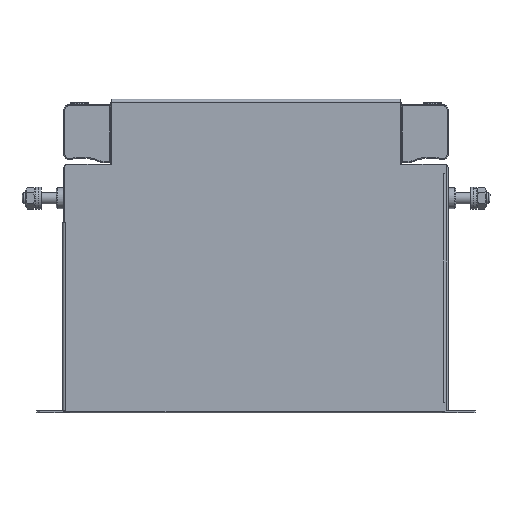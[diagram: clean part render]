
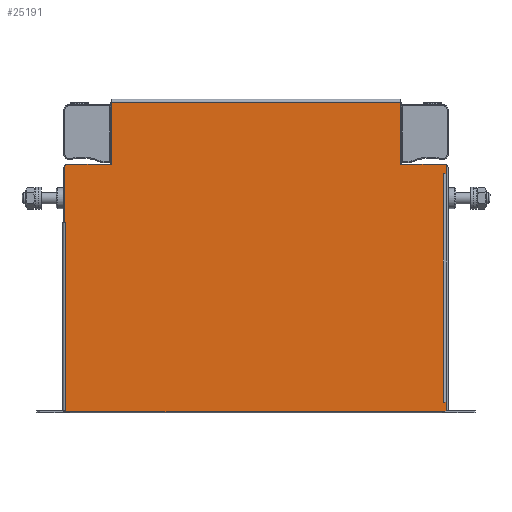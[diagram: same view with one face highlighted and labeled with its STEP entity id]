
A CAD part, top view. The second image highlights one B-rep face of the part: STEP entity #25191.
In plain terms, the highlighted planar face has unit normal (0, 0, 1).
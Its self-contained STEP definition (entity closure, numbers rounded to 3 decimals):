
#2637=FACE_OUTER_BOUND('',#4230,.T.);
#4230=EDGE_LOOP('',(#19811,#19812,#19813,#19814,#19815,#19816,#19817,#19818,
#19819,#19820,#19821,#19822,#19823,#19824,#19825,#19826,#19827,#19828,#19829,
#19830,#19831,#19832,#19833,#19834,#19835,#19836,#19837));
#6582=LINE('',#40870,#8995);
#6583=LINE('',#40872,#8996);
#6584=LINE('',#40874,#8997);
#6585=LINE('',#40876,#8998);
#6586=LINE('',#40878,#8999);
#6587=LINE('',#40880,#9000);
#6588=LINE('',#40882,#9001);
#6589=LINE('',#40884,#9002);
#6590=LINE('',#40886,#9003);
#6591=LINE('',#40888,#9004);
#6592=LINE('',#40890,#9005);
#6593=LINE('',#40892,#9006);
#6594=LINE('',#40894,#9007);
#6595=LINE('',#40896,#9008);
#6596=LINE('',#40898,#9009);
#6597=LINE('',#40900,#9010);
#6598=LINE('',#40902,#9011);
#6599=LINE('',#40904,#9012);
#6600=LINE('',#40906,#9013);
#6601=LINE('',#40908,#9014);
#6602=LINE('',#40910,#9015);
#6603=LINE('',#40911,#9016);
#6604=LINE('',#40913,#9017);
#6605=LINE('',#40915,#9018);
#6606=LINE('',#40917,#9019);
#6607=LINE('',#40919,#9020);
#6608=LINE('',#40920,#9021);
#8995=VECTOR('',#32714,10.);
#8996=VECTOR('',#32715,10.);
#8997=VECTOR('',#32716,10.);
#8998=VECTOR('',#32717,10.);
#8999=VECTOR('',#32718,10.);
#9000=VECTOR('',#32719,10.);
#9001=VECTOR('',#32720,10.);
#9002=VECTOR('',#32721,10.);
#9003=VECTOR('',#32722,10.);
#9004=VECTOR('',#32723,10.);
#9005=VECTOR('',#32724,10.);
#9006=VECTOR('',#32725,10.);
#9007=VECTOR('',#32726,10.);
#9008=VECTOR('',#32727,10.);
#9009=VECTOR('',#32728,10.);
#9010=VECTOR('',#32729,10.);
#9011=VECTOR('',#32730,10.);
#9012=VECTOR('',#32731,10.);
#9013=VECTOR('',#32732,10.);
#9014=VECTOR('',#32733,10.);
#9015=VECTOR('',#32734,10.);
#9016=VECTOR('',#32735,10.);
#9017=VECTOR('',#32736,10.);
#9018=VECTOR('',#32737,10.);
#9019=VECTOR('',#32738,10.);
#9020=VECTOR('',#32739,10.);
#9021=VECTOR('',#32740,10.);
#11127=VERTEX_POINT('',#40715);
#11179=VERTEX_POINT('',#40868);
#11180=VERTEX_POINT('',#40869);
#11181=VERTEX_POINT('',#40871);
#11182=VERTEX_POINT('',#40873);
#11183=VERTEX_POINT('',#40875);
#11184=VERTEX_POINT('',#40877);
#11185=VERTEX_POINT('',#40879);
#11186=VERTEX_POINT('',#40881);
#11187=VERTEX_POINT('',#40883);
#11188=VERTEX_POINT('',#40885);
#11189=VERTEX_POINT('',#40887);
#11190=VERTEX_POINT('',#40889);
#11191=VERTEX_POINT('',#40891);
#11192=VERTEX_POINT('',#40893);
#11193=VERTEX_POINT('',#40895);
#11194=VERTEX_POINT('',#40897);
#11195=VERTEX_POINT('',#40899);
#11196=VERTEX_POINT('',#40901);
#11197=VERTEX_POINT('',#40903);
#11198=VERTEX_POINT('',#40905);
#11199=VERTEX_POINT('',#40907);
#11200=VERTEX_POINT('',#40909);
#11201=VERTEX_POINT('',#40912);
#11202=VERTEX_POINT('',#40914);
#11203=VERTEX_POINT('',#40916);
#11204=VERTEX_POINT('',#40918);
#14136=EDGE_CURVE('',#11179,#11180,#6582,.T.);
#14137=EDGE_CURVE('',#11181,#11179,#6583,.T.);
#14138=EDGE_CURVE('',#11181,#11182,#6584,.T.);
#14139=EDGE_CURVE('',#11182,#11183,#6585,.T.);
#14140=EDGE_CURVE('',#11183,#11184,#6586,.T.);
#14141=EDGE_CURVE('',#11184,#11185,#6587,.T.);
#14142=EDGE_CURVE('',#11185,#11186,#6588,.T.);
#14143=EDGE_CURVE('',#11186,#11187,#6589,.T.);
#14144=EDGE_CURVE('',#11187,#11188,#6590,.T.);
#14145=EDGE_CURVE('',#11189,#11188,#6591,.T.);
#14146=EDGE_CURVE('',#11190,#11189,#6592,.T.);
#14147=EDGE_CURVE('',#11190,#11191,#6593,.T.);
#14148=EDGE_CURVE('',#11191,#11192,#6594,.T.);
#14149=EDGE_CURVE('',#11192,#11193,#6595,.T.);
#14150=EDGE_CURVE('',#11193,#11194,#6596,.T.);
#14151=EDGE_CURVE('',#11194,#11195,#6597,.T.);
#14152=EDGE_CURVE('',#11196,#11195,#6598,.T.);
#14153=EDGE_CURVE('',#11196,#11197,#6599,.T.);
#14154=EDGE_CURVE('',#11197,#11198,#6600,.T.);
#14155=EDGE_CURVE('',#11198,#11199,#6601,.T.);
#14156=EDGE_CURVE('',#11199,#11200,#6602,.T.);
#14157=EDGE_CURVE('',#11200,#11127,#6603,.T.);
#14158=EDGE_CURVE('',#11127,#11201,#6604,.T.);
#14159=EDGE_CURVE('',#11201,#11202,#6605,.T.);
#14160=EDGE_CURVE('',#11202,#11203,#6606,.T.);
#14161=EDGE_CURVE('',#11204,#11203,#6607,.T.);
#14162=EDGE_CURVE('',#11180,#11204,#6608,.T.);
#19811=ORIENTED_EDGE('',*,*,#14136,.F.);
#19812=ORIENTED_EDGE('',*,*,#14137,.F.);
#19813=ORIENTED_EDGE('',*,*,#14138,.T.);
#19814=ORIENTED_EDGE('',*,*,#14139,.T.);
#19815=ORIENTED_EDGE('',*,*,#14140,.T.);
#19816=ORIENTED_EDGE('',*,*,#14141,.T.);
#19817=ORIENTED_EDGE('',*,*,#14142,.T.);
#19818=ORIENTED_EDGE('',*,*,#14143,.T.);
#19819=ORIENTED_EDGE('',*,*,#14144,.T.);
#19820=ORIENTED_EDGE('',*,*,#14145,.F.);
#19821=ORIENTED_EDGE('',*,*,#14146,.F.);
#19822=ORIENTED_EDGE('',*,*,#14147,.T.);
#19823=ORIENTED_EDGE('',*,*,#14148,.T.);
#19824=ORIENTED_EDGE('',*,*,#14149,.T.);
#19825=ORIENTED_EDGE('',*,*,#14150,.T.);
#19826=ORIENTED_EDGE('',*,*,#14151,.T.);
#19827=ORIENTED_EDGE('',*,*,#14152,.F.);
#19828=ORIENTED_EDGE('',*,*,#14153,.T.);
#19829=ORIENTED_EDGE('',*,*,#14154,.T.);
#19830=ORIENTED_EDGE('',*,*,#14155,.T.);
#19831=ORIENTED_EDGE('',*,*,#14156,.T.);
#19832=ORIENTED_EDGE('',*,*,#14157,.T.);
#19833=ORIENTED_EDGE('',*,*,#14158,.T.);
#19834=ORIENTED_EDGE('',*,*,#14159,.T.);
#19835=ORIENTED_EDGE('',*,*,#14160,.T.);
#19836=ORIENTED_EDGE('',*,*,#14161,.F.);
#19837=ORIENTED_EDGE('',*,*,#14162,.F.);
#22520=PLANE('',#27172);
#25191=ADVANCED_FACE('',(#2637),#22520,.T.);
#27172=AXIS2_PLACEMENT_3D('',#40867,#32712,#32713);
#32712=DIRECTION('center_axis',(0.,0.,
1.));
#32713=DIRECTION('ref_axis',(1.,0.,0.));
#32714=DIRECTION('',(-0.707,-0.707,0.));
#32715=DIRECTION('',(0.,-1.,0.));
#32716=DIRECTION('',(-1.,0.,0.));
#32717=DIRECTION('',(0.,1.,0.));
#32718=DIRECTION('',(1.,0.,0.));
#32719=DIRECTION('',(0.,1.,0.));
#32720=DIRECTION('',(-1.,0.,0.));
#32721=DIRECTION('',(0.,1.,0.));
#32722=DIRECTION('',(1.,0.,0.));
#32723=DIRECTION('',(0.,-1.,0.));
#32724=DIRECTION('',(0.707,-0.707,0.));
#32725=DIRECTION('',(-1.,0.,0.));
#32726=DIRECTION('',(0.,1.,0.));
#32727=DIRECTION('',(-1.,0.,0.));
#32728=DIRECTION('',(0.,-1.,0.));
#32729=DIRECTION('',(-1.,0.,0.));
#32730=DIRECTION('',(0.707,0.707,0.));
#32731=DIRECTION('',(0.,-1.,0.));
#32732=DIRECTION('',(1.,0.,0.));
#32733=DIRECTION('',(0.,-1.,0.));
#32734=DIRECTION('',(-1.,0.,0.));
#32735=DIRECTION('',(0.,-1.,0.));
#32736=DIRECTION('',(1.,0.,0.));
#32737=DIRECTION('',(0.,-1.,0.));
#32738=DIRECTION('',(-1.,0.,0.));
#32739=DIRECTION('',(0.,1.,0.));
#32740=DIRECTION('',(-1.,0.,0.));
#40715=CARTESIAN_POINT('',(-102.2,1.,24.85));
#40867=CARTESIAN_POINT('Origin',(-0.5,84.25,24.85));
#40868=CARTESIAN_POINT('',(102.,1.5,24.85));
#40869=CARTESIAN_POINT('',(101.,0.5,24.85));
#40870=CARTESIAN_POINT('',(96.812,-3.688,24.85));
#40871=CARTESIAN_POINT('',(102.,5.49,24.85));
#40872=CARTESIAN_POINT('',(102.,0.5,24.85));
#40873=CARTESIAN_POINT('',(100.49,5.49,24.85));
#40874=CARTESIAN_POINT('',(50.75,5.49,24.85));
#40875=CARTESIAN_POINT('',(100.49,5.5,24.85));
#40876=CARTESIAN_POINT('',(100.49,44.87,24.85));
#40877=CARTESIAN_POINT('',(100.5,5.5,24.85));
#40878=CARTESIAN_POINT('',(49.995,5.5,24.85));
#40879=CARTESIAN_POINT('',(100.5,128.1,24.85));
#40880=CARTESIAN_POINT('',(100.5,44.875,24.85));
#40881=CARTESIAN_POINT('',(100.49,128.1,24.85));
#40882=CARTESIAN_POINT('',(50.75,128.1,24.85));
#40883=CARTESIAN_POINT('',(100.49,128.11,24.85));
#40884=CARTESIAN_POINT('',(100.49,106.175,24.85));
#40885=CARTESIAN_POINT('',(102.,128.11,24.85));
#40886=CARTESIAN_POINT('',(49.995,128.11,24.85));
#40887=CARTESIAN_POINT('',(102.,132.1,24.85));
#40888=CARTESIAN_POINT('',(102.,0.5,24.85));
#40889=CARTESIAN_POINT('',(101.,133.1,24.85));
#40890=CARTESIAN_POINT('',(88.087,146.013,24.85));
#40891=CARTESIAN_POINT('',(77.5,133.1,24.85));
#40892=CARTESIAN_POINT('',(50.75,133.1,24.85));
#40893=CARTESIAN_POINT('',(77.5,166.5,24.85));
#40894=CARTESIAN_POINT('',(77.5,108.675,24.85));
#40895=CARTESIAN_POINT('',(-77.5,166.5,24.85));
#40896=CARTESIAN_POINT('',(38.5,166.5,24.85));
#40897=CARTESIAN_POINT('',(-77.5,133.1,24.85));
#40898=CARTESIAN_POINT('',(-77.5,126.125,24.85));
#40899=CARTESIAN_POINT('',(-101.5,133.1,24.85));
#40900=CARTESIAN_POINT('',(-39.,133.1,24.85));
#40901=CARTESIAN_POINT('',(-102.5,132.1,24.85));
#40902=CARTESIAN_POINT('',(-88.713,145.888,24.85));
#40903=CARTESIAN_POINT('',(-102.5,102.11,24.85));
#40904=CARTESIAN_POINT('',(-102.5,100.928,24.85));
#40905=CARTESIAN_POINT('',(-102.19,102.11,24.85));
#40906=CARTESIAN_POINT('',(-51.75,102.11,24.85));
#40907=CARTESIAN_POINT('',(-102.19,102.1,24.85));
#40908=CARTESIAN_POINT('',(-102.19,93.18,24.85));
#40909=CARTESIAN_POINT('',(-102.2,102.1,24.85));
#40910=CARTESIAN_POINT('',(-51.345,102.1,24.85));
#40911=CARTESIAN_POINT('',(-102.2,93.175,24.85));
#40912=CARTESIAN_POINT('',(-102.19,1.,24.85));
#40913=CARTESIAN_POINT('',(-51.75,1.,24.85));
#40914=CARTESIAN_POINT('',(-102.19,0.99,24.85));
#40915=CARTESIAN_POINT('',(-102.19,42.625,24.85));
#40916=CARTESIAN_POINT('',(-103.,0.99,24.85));
#40917=CARTESIAN_POINT('',(-51.345,0.99,24.85));
#40918=CARTESIAN_POINT('',(-103.,0.5,24.85));
#40919=CARTESIAN_POINT('',(-103.,168.,24.85));
#40920=CARTESIAN_POINT('',(-103.,0.5,24.85));
